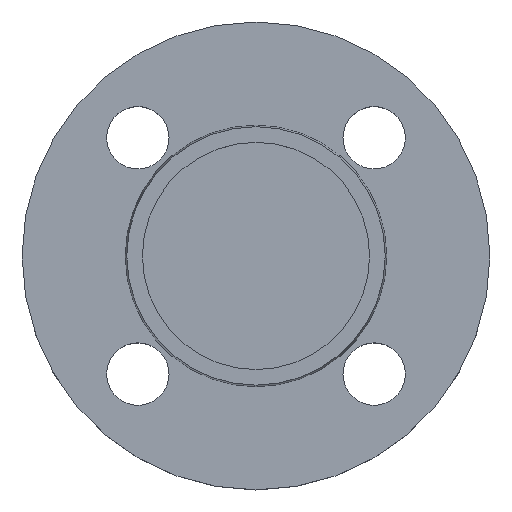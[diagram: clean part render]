
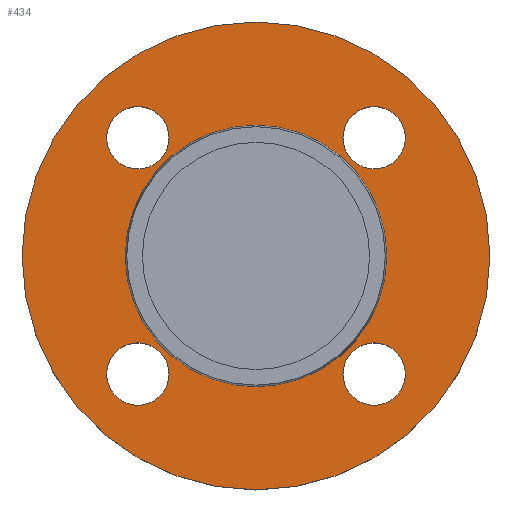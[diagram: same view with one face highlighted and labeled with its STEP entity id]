
A CAD part, top view. The second image highlights one B-rep face of the part: STEP entity #434.
In plain terms, the highlighted planar face has unit normal (0, 0, 1).
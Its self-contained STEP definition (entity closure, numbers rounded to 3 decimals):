
#11 = DIRECTION ( 'NONE',  ( 1., 0., 0. ) ) ;
#12 = DIRECTION ( 'NONE',  ( 0., 0., -1. ) ) ;
#14 = CARTESIAN_POINT ( 'NONE',  ( -26.517, 26.517, -2. ) ) ;
#31 = CIRCLE ( 'NONE', #46, 7. ) ;
#43 = DIRECTION ( 'NONE',  ( 0., 0., -1. ) ) ;
#46 = AXIS2_PLACEMENT_3D ( 'NONE', #14, #12, #11 ) ;
#66 = CARTESIAN_POINT ( 'NONE',  ( 26.517, 26.517, -2. ) ) ;
#70 = DIRECTION ( 'NONE',  ( 1., 0., 0. ) ) ;
#76 = DIRECTION ( 'NONE',  ( 1., 0., 0. ) ) ;
#90 = DIRECTION ( 'NONE',  ( 0., 0., -1. ) ) ;
#92 = AXIS2_PLACEMENT_3D ( 'NONE', #247, #244, #245 ) ;
#99 = AXIS2_PLACEMENT_3D ( 'NONE', #693, #694, #700 ) ;
#101 = CARTESIAN_POINT ( 'NONE',  ( -26.517, -26.517, -2. ) ) ;
#104 = EDGE_CURVE ( 'NONE', #266, #156, #213, .T. ) ;
#109 = AXIS2_PLACEMENT_3D ( 'NONE', #257, #261, #496 ) ;
#112 = EDGE_CURVE ( 'NONE', #276, #181, #682, .T. ) ;
#113 = EDGE_CURVE ( 'NONE', #384, #191, #210, .T. ) ;
#131 = CIRCLE ( 'NONE', #99, 7. ) ;
#135 = EDGE_LOOP ( 'NONE', ( #425, #426 ) ) ;
#140 = EDGE_LOOP ( 'NONE', ( #418, #420 ) ) ;
#144 = CIRCLE ( 'NONE', #185, 7. ) ;
#151 = VERTEX_POINT ( 'NONE', #288 ) ;
#153 = EDGE_LOOP ( 'NONE', ( #414, #415 ) ) ;
#156 = VERTEX_POINT ( 'NONE', #285 ) ;
#158 = ORIENTED_EDGE ( 'NONE', *, *, #672, .T. ) ;
#161 = EDGE_LOOP ( 'NONE', ( #184, #158 ) ) ;
#163 = VERTEX_POINT ( 'NONE', #359 ) ;
#166 = EDGE_LOOP ( 'NONE', ( #416, #417 ) ) ;
#168 = AXIS2_PLACEMENT_3D ( 'NONE', #515, #512, #511 ) ;
#174 = VERTEX_POINT ( 'NONE', #419 ) ;
#181 = VERTEX_POINT ( 'NONE', #490 ) ;
#184 = ORIENTED_EDGE ( 'NONE', *, *, #386, .T. ) ;
#185 = AXIS2_PLACEMENT_3D ( 'NONE', #101, #43, #76 ) ;
#187 = AXIS2_PLACEMENT_3D ( 'NONE', #665, #666, #668 ) ;
#188 = VERTEX_POINT ( 'NONE', #503 ) ;
#191 = VERTEX_POINT ( 'NONE', #502 ) ;
#192 = EDGE_CURVE ( 'NONE', #191, #384, #710, .T. ) ;
#194 = EDGE_CURVE ( 'NONE', #377, #188, #450, .T. ) ;
#200 = EDGE_CURVE ( 'NONE', #156, #266, #322, .T. ) ;
#210 = CIRCLE ( 'NONE', #109, 29.353 ) ;
#213 = CIRCLE ( 'NONE', #92, 52.5 ) ;
#215 = AXIS2_PLACEMENT_3D ( 'NONE', #248, #253, #254 ) ;
#232 = AXIS2_PLACEMENT_3D ( 'NONE', #66, #90, #70 ) ;
#233 = CIRCLE ( 'NONE', #232, 7. ) ;
#244 = DIRECTION ( 'NONE',  ( 0., 0., -1. ) ) ;
#245 = DIRECTION ( 'NONE',  ( -1., 0., 0. ) ) ;
#247 = CARTESIAN_POINT ( 'NONE',  ( 0., 0., -2. ) ) ;
#248 = CARTESIAN_POINT ( 'NONE',  ( 26.517, -26.517, -2. ) ) ;
#252 = CIRCLE ( 'NONE', #396, 7. ) ;
#253 = DIRECTION ( 'NONE',  ( 0., 0., -1. ) ) ;
#254 = DIRECTION ( 'NONE',  ( 1., 0., 0. ) ) ;
#257 = CARTESIAN_POINT ( 'NONE',  ( 0., 0., -2. ) ) ;
#261 = DIRECTION ( 'NONE',  ( 0., 0., -1. ) ) ;
#266 = VERTEX_POINT ( 'NONE', #562 ) ;
#276 = VERTEX_POINT ( 'NONE', #566 ) ;
#285 = CARTESIAN_POINT ( 'NONE',  ( -52.5, 0., -2. ) ) ;
#288 = CARTESIAN_POINT ( 'NONE',  ( -33.517, -26.517, -2. ) ) ;
#322 = CIRCLE ( 'NONE', #684, 52.5 ) ;
#359 = CARTESIAN_POINT ( 'NONE',  ( -33.517, 26.517, -2. ) ) ;
#374 = EDGE_LOOP ( 'NONE', ( #421, #423 ) ) ;
#377 = VERTEX_POINT ( 'NONE', #622 ) ;
#382 = CIRCLE ( 'NONE', #670, 7. ) ;
#384 = VERTEX_POINT ( 'NONE', #624 ) ;
#386 = EDGE_CURVE ( 'NONE', #422, #163, #382, .T. ) ;
#396 = AXIS2_PLACEMENT_3D ( 'NONE', #641, #642, #644 ) ;
#407 = EDGE_CURVE ( 'NONE', #181, #276, #252, .T. ) ;
#414 = ORIENTED_EDGE ( 'NONE', *, *, #407, .T. ) ;
#415 = ORIENTED_EDGE ( 'NONE', *, *, #112, .T. ) ;
#416 = ORIENTED_EDGE ( 'NONE', *, *, #545, .T. ) ;
#417 = ORIENTED_EDGE ( 'NONE', *, *, #492, .T. ) ;
#418 = ORIENTED_EDGE ( 'NONE', *, *, #513, .T. ) ;
#419 = CARTESIAN_POINT ( 'NONE',  ( -19.517, -26.517, -2. ) ) ;
#420 = ORIENTED_EDGE ( 'NONE', *, *, #194, .T. ) ;
#421 = ORIENTED_EDGE ( 'NONE', *, *, #192, .T. ) ;
#422 = VERTEX_POINT ( 'NONE', #647 ) ;
#423 = ORIENTED_EDGE ( 'NONE', *, *, #113, .T. ) ;
#425 = ORIENTED_EDGE ( 'NONE', *, *, #104, .F. ) ;
#426 = ORIENTED_EDGE ( 'NONE', *, *, #200, .F. ) ;
#434 = ADVANCED_FACE ( 'NONE', ( #658, #659, #660, #661, #662, #663 ), #664, .T. ) ;
#450 = CIRCLE ( 'NONE', #168, 7. ) ;
#451 = AXIS2_PLACEMENT_3D ( 'NONE', #509, #507, #506 ) ;
#490 = CARTESIAN_POINT ( 'NONE',  ( 33.517, -26.517, -2. ) ) ;
#492 = EDGE_CURVE ( 'NONE', #151, #174, #131, .T. ) ;
#496 = DIRECTION ( 'NONE',  ( -1., 0., 0. ) ) ;
#502 = CARTESIAN_POINT ( 'NONE',  ( -29.353, 0., -2. ) ) ;
#503 = CARTESIAN_POINT ( 'NONE',  ( 33.517, 26.517, -2. ) ) ;
#506 = DIRECTION ( 'NONE',  ( -1., 0., 0. ) ) ;
#507 = DIRECTION ( 'NONE',  ( 0., 0., -1. ) ) ;
#509 = CARTESIAN_POINT ( 'NONE',  ( 0., 0., -2. ) ) ;
#511 = DIRECTION ( 'NONE',  ( 1., 0., 0. ) ) ;
#512 = DIRECTION ( 'NONE',  ( 0., 0., -1. ) ) ;
#513 = EDGE_CURVE ( 'NONE', #188, #377, #233, .T. ) ;
#515 = CARTESIAN_POINT ( 'NONE',  ( 26.517, 26.517, -2. ) ) ;
#521 = CARTESIAN_POINT ( 'NONE',  ( 0., 0., -2. ) ) ;
#522 = DIRECTION ( 'NONE',  ( 0., 0., -1. ) ) ;
#524 = DIRECTION ( 'NONE',  ( -1., 0., 0. ) ) ;
#545 = EDGE_CURVE ( 'NONE', #174, #151, #144, .T. ) ;
#562 = CARTESIAN_POINT ( 'NONE',  ( 52.5, 0., -2. ) ) ;
#566 = CARTESIAN_POINT ( 'NONE',  ( 19.517, -26.517, -2. ) ) ;
#622 = CARTESIAN_POINT ( 'NONE',  ( 19.517, 26.517, -2. ) ) ;
#624 = CARTESIAN_POINT ( 'NONE',  ( 29.353, 0., -2. ) ) ;
#626 = CARTESIAN_POINT ( 'NONE',  ( -26.517, 26.517, -2. ) ) ;
#627 = DIRECTION ( 'NONE',  ( 0., 0., -1. ) ) ;
#628 = DIRECTION ( 'NONE',  ( 1., 0., 0. ) ) ;
#641 = CARTESIAN_POINT ( 'NONE',  ( 26.517, -26.517, -2. ) ) ;
#642 = DIRECTION ( 'NONE',  ( 0., 0., -1. ) ) ;
#644 = DIRECTION ( 'NONE',  ( 1., 0., 0. ) ) ;
#647 = CARTESIAN_POINT ( 'NONE',  ( -19.517, 26.517, -2. ) ) ;
#658 = FACE_BOUND ( 'NONE', #153, .T. ) ;
#659 = FACE_BOUND ( 'NONE', #166, .T. ) ;
#660 = FACE_BOUND ( 'NONE', #161, .T. ) ;
#661 = FACE_BOUND ( 'NONE', #140, .T. ) ;
#662 = FACE_BOUND ( 'NONE', #374, .T. ) ;
#663 = FACE_OUTER_BOUND ( 'NONE', #135, .T. ) ;
#664 = PLANE ( 'NONE',  #187 ) ;
#665 = CARTESIAN_POINT ( 'NONE',  ( 29.353, 0., -2. ) ) ;
#666 = DIRECTION ( 'NONE',  ( 0., 0., 1. ) ) ;
#668 = DIRECTION ( 'NONE',  ( 1., 0., 0. ) ) ;
#670 = AXIS2_PLACEMENT_3D ( 'NONE', #626, #627, #628 ) ;
#672 = EDGE_CURVE ( 'NONE', #163, #422, #31, .T. ) ;
#682 = CIRCLE ( 'NONE', #215, 7. ) ;
#684 = AXIS2_PLACEMENT_3D ( 'NONE', #521, #522, #524 ) ;
#693 = CARTESIAN_POINT ( 'NONE',  ( -26.517, -26.517, -2. ) ) ;
#694 = DIRECTION ( 'NONE',  ( 0., 0., -1. ) ) ;
#700 = DIRECTION ( 'NONE',  ( 1., 0., 0. ) ) ;
#710 = CIRCLE ( 'NONE', #451, 29.353 ) ;
